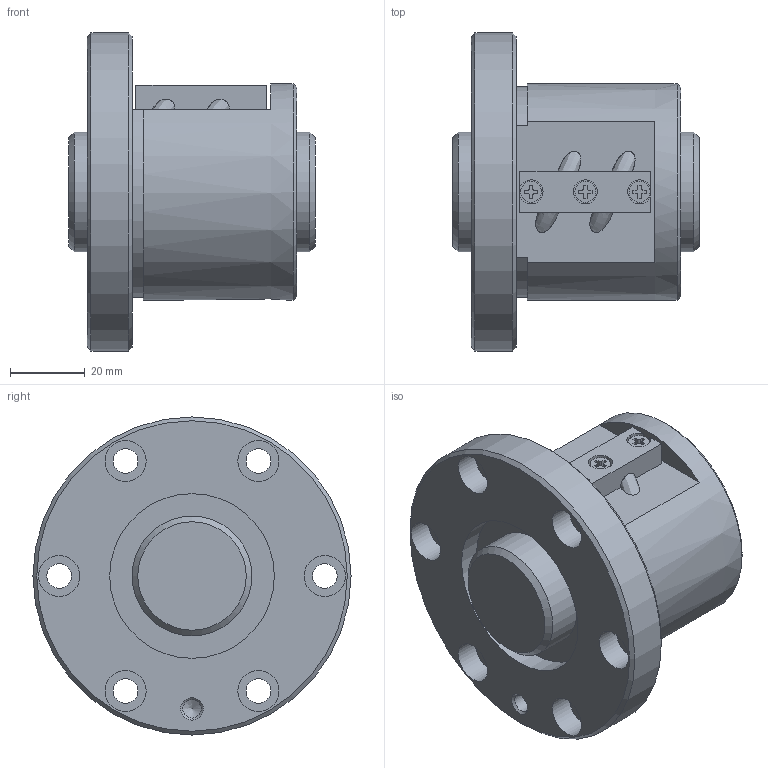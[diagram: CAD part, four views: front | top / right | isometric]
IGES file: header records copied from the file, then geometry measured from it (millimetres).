
Start section: Data from Parasolid IGES Translator 26.0.171, Copyright(c) 2006 Siemens PLM Software. All Rights Reserved.
Global section: file name: SBN3205V-5G0+66LC0(0000).igs; native system: By Siemens PLM Incorporated; preprocessor: XPlus GENERIC/IGES 26.0.171; author: Noname; organization: Noname; date: 20240528.102443; units: millimetre
Bounding box: 66 x 85 x 85 mm (x, y, z)
Surface area: 37798 mm2 (no closed solid volume)
Topology: 0 solids, 0 shells, 124 faces, 595 edges, 553 vertices
Faces by surface type: extrusion 69, revolution 55
